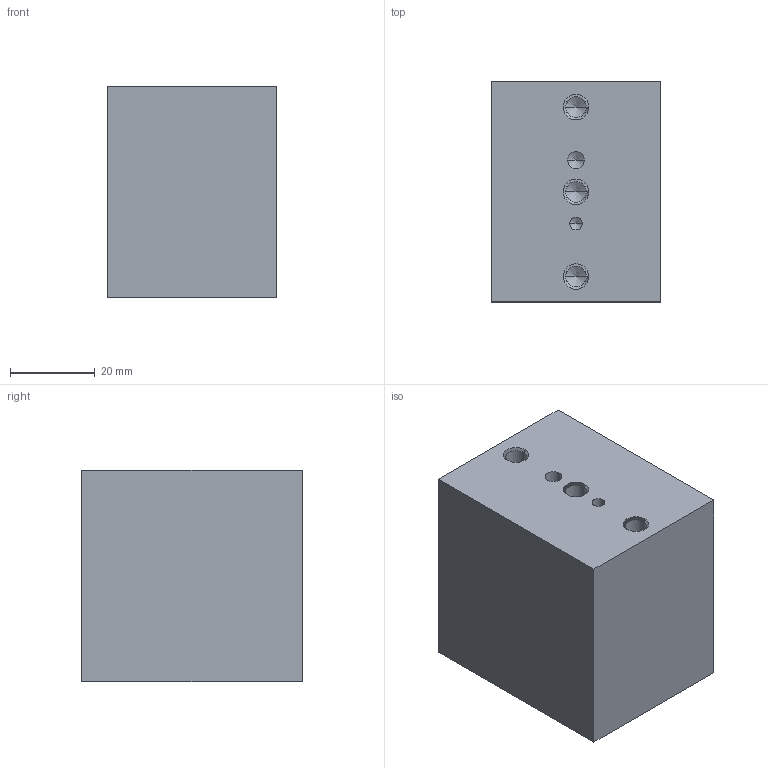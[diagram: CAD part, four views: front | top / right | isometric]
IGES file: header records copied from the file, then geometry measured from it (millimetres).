
Start section: 3D InterOp IGES (v. 2020 1.0.1), Spatial Corp. Copyright (c) 1999-2017.
Global section: file name: V92564_40_52_50.igs; native system: Spatial Corp.; preprocessor: 3D InterOp GENERIC/IGES 3.0; author: Noname; organization: Noname; date: 20201116.103518; units: metre
Bounding box: 40 x 52 x 50 mm (x, y, z)
Surface area: 14221.9 mm2 (no closed solid volume)
Topology: 0 solids, 0 shells, 41 faces, 174 edges, 164 vertices
Faces by surface type: revolution 32, extrusion 9
